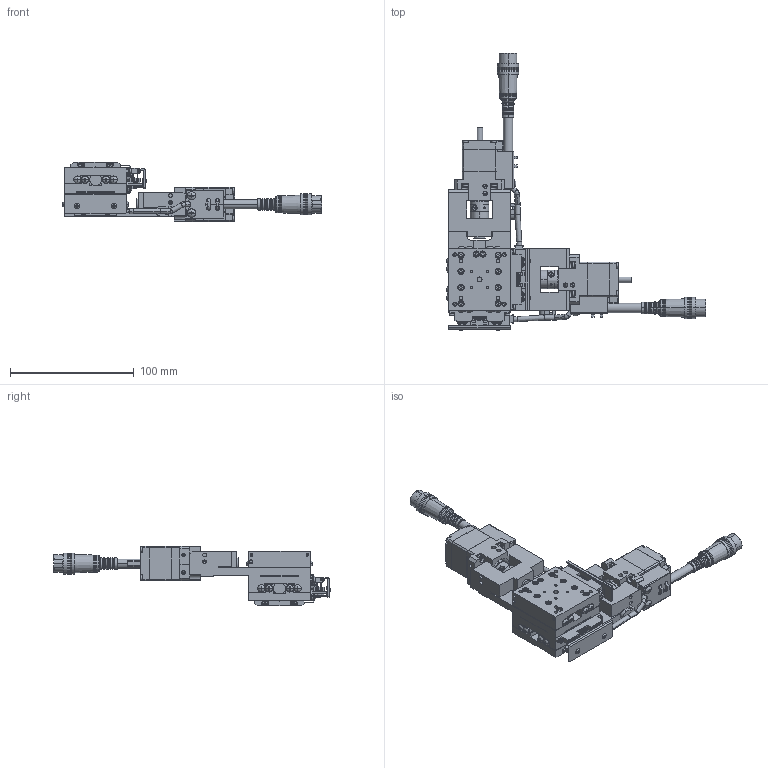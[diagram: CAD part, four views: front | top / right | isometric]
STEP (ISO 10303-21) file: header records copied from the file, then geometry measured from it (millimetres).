
FILE_DESCRIPTION (( 'STEP AP203' ), '1' );
FILE_NAME ('YA05A-R202-RRR.STEP', '2019-02-26T08:46:05', ( '' ), ( '' ), 'SwSTEP 2.0', 'SolidWorks 2018', '' );
FILE_SCHEMA (( 'CONFIG_CONTROL_DESIGN' ));
Length unit declared in the file: millimetre
Products named in the file (10): base-Part-2; table; second table; second table-Part-2; second table-Part-3; base; second table-Part-1; base-Part-1; YA05A-R202-RRR; base-Part-3
Assembly tree (9 placements, depth 3):
  YA05A-R202-RRR
    second table
      second table-Part-1
      second table-Part-2
      second table-Part-3
    base
      base-Part-1
      base-Part-2
      base-Part-3
    table
Bounding box: 209.18 x 223.68 x 48 mm (x, y, z)
Volume: 243934.9 mm3; surface area: 109097.4 mm2
Topology: 7 solids, 9 shells, 4425 faces, 10950 edges, 6682 vertices
Faces by surface type: plane 2661, cylinder 1028, cone 456, torus 212, sphere 68
Entity records: 131672 total; most frequent: CARTESIAN_POINT 23753, DIRECTION 23368, ORIENTED_EDGE 21540, EDGE_CURVE 10770, AXIS2_PLACEMENT_3D 8377, VERTEX_POINT 6670, VECTOR 6614, LINE 6614
